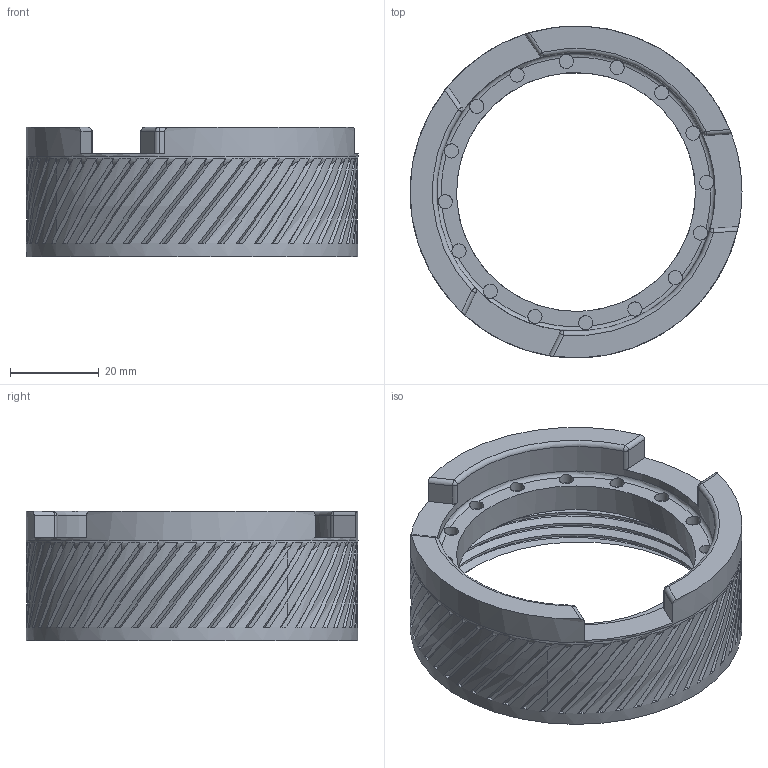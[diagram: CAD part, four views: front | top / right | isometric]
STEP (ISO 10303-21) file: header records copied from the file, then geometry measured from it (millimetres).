
FILE_DESCRIPTION(/* description */ ('STEP AP242','CAx-IF Rec.Pracs.---Representation and Presentation of Product Manufacturing Information (PMI)---4.0---2014-10-13','CAx-IF Rec.Pracs.---3D Tessellated Geometry---0.4---2014-09-14','2;1'),/* implementation_level */ '2;1');
FILE_NAME(/* name */ '64691fc2cac4670533c1f0c1',/* time_stamp */ '2023-05-20T19:30:10Z',/* author */ (''),/* organization */ (''),/* preprocessor_version */ 'ST-DEVELOPER v19.4',/* originating_system */ ' ',/* authorisation */ ' ');
FILE_SCHEMA (('AP242_MANAGED_MODEL_BASED_3D_ENGINEERING_MIM_LF { 1 0 10303 442 1 1 4 }'));
Length unit declared in the file: metre
Products named in the file (1): Base 24mm Magnet Lug
Bounding box: 75 x 75 x 29.2 mm (x, y, z)
Volume: 35561.4 mm3; surface area: 18208.1 mm2
Topology: 1 solids, 1 shells, 289 faces, 842 edges, 552 vertices
Faces by surface type: bspline 132, plane 106, cylinder 36, sphere 6, torus 5, cone 4
Full cylindrical faces by diameter (mm): 3.2 x16, 54 x1, 62.9 x1, 74.9 x1, 75 x1
Entity records: 15761 total; most frequent: CARTESIAN_POINT 9930, ORIENTED_EDGE 1560, DIRECTION 796, EDGE_CURVE 780, VERTEX_POINT 522, AXIS2_PLACEMENT_3D 359, B_SPLINE_CURVE_WITH_KNOTS 336, EDGE_LOOP 314
